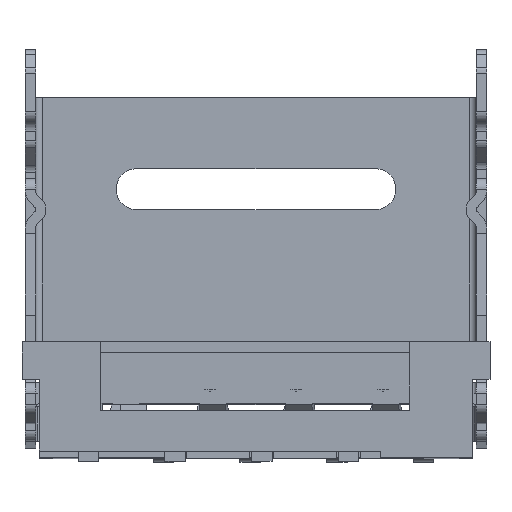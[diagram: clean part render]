
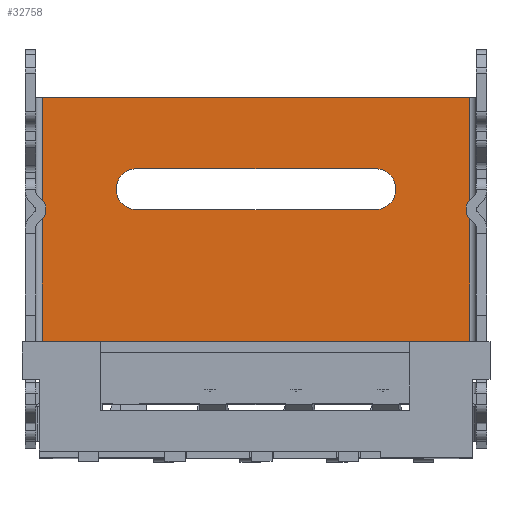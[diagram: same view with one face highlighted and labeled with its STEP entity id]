
A CAD part, top view. The second image highlights one B-rep face of the part: STEP entity #32758.
In plain terms, the highlighted planar face has unit normal (0, 0, 1) as drawn and (0, -1, 0) by its records, which use the part's own axes.
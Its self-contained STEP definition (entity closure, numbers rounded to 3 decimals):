
#29470=DIRECTION('',(-1.,0.,0.));
#29471=VECTOR('',#29470,1.17);
#29472=CARTESIAN_POINT('',(3.13,0.,-2.3));
#29473=LINE('',#29472,#29471);
#29500=DIRECTION('',(-1.,0.,0.));
#29501=VECTOR('',#29500,1.17);
#29502=CARTESIAN_POINT('',(-1.96,0.,-2.3));
#29503=LINE('',#29502,#29501);
#29661=DIRECTION('',(1.,0.,0.));
#29662=VECTOR('',#29661,3.5);
#29663=CARTESIAN_POINT('',(-1.75,0.,0.3));
#29664=LINE('',#29663,#29662);
#29668=CARTESIAN_POINT('',(-1.75,0.,0.));
#29669=DIRECTION('',(0.,1.,0.));
#29670=DIRECTION('',(0.,0.,-1.));
#29671=AXIS2_PLACEMENT_3D('',#29668,#29669,#29670);
#29676=DIRECTION('',(-1.,0.,0.));
#29677=VECTOR('',#29676,3.5);
#29678=CARTESIAN_POINT('',(1.75,0.,-0.3));
#29679=LINE('',#29678,#29677);
#29683=CARTESIAN_POINT('',(1.75,0.,0.));
#29684=DIRECTION('',(0.,1.,0.));
#29685=DIRECTION('',(0.,0.,1.));
#29686=AXIS2_PLACEMENT_3D('',#29683,#29684,#29685);
#29691=CARTESIAN_POINT('',(0.,0.,0.6));
#29692=DIRECTION('',(0.,1.,0.));
#29693=DIRECTION('',(0.56,0.,-0.829));
#29694=AXIS2_PLACEMENT_3D('',#29691,#29692,#29693);
#29699=DIRECTION('',(1.,0.,0.));
#29700=VECTOR('',#29699,6.26);
#29701=CARTESIAN_POINT('',(-3.13,0.,1.34));
#29702=LINE('',#29701,#29700);
#29706=DIRECTION('',(0.,0.,-1.));
#29707=VECTOR('',#29706,3.64);
#29708=CARTESIAN_POINT('',(3.13,0.,1.34));
#29709=LINE('',#29708,#29707);
#29986=DIRECTION('',(0.,0.,-1.));
#29987=VECTOR('',#29986,3.64);
#29988=CARTESIAN_POINT('',(-3.13,0.,1.34));
#29989=LINE('',#29988,#29987);
#30836=CARTESIAN_POINT('',(-1.75,0.,0.3));
#30837=CARTESIAN_POINT('',(1.75,0.,0.3));
#30838=VERTEX_POINT('',#30836);
#30839=VERTEX_POINT('',#30837);
#30840=CARTESIAN_POINT('',(1.75,0.,-0.3));
#30841=VERTEX_POINT('',#30840);
#30842=CARTESIAN_POINT('',(-1.75,0.,-0.3));
#30843=VERTEX_POINT('',#30842);
#31012=CARTESIAN_POINT('',(-3.13,0.,1.34));
#31014=VERTEX_POINT('',#31012);
#31016=CARTESIAN_POINT('',(3.13,0.,1.34));
#31017=VERTEX_POINT('',#31016);
#31088=CARTESIAN_POINT('',(3.13,0.,-2.3));
#31089=VERTEX_POINT('',#31088);
#31090=CARTESIAN_POINT('',(-3.13,0.,-2.3));
#31091=VERTEX_POINT('',#31090);
#31092=CARTESIAN_POINT('',(1.96,0.,-2.3));
#31094=VERTEX_POINT('',#31092);
#31096=CARTESIAN_POINT('',(-1.96,0.,-2.3));
#31098=VERTEX_POINT('',#31096);
#32733=CARTESIAN_POINT('',(-3.13,0.,-3.));
#32734=DIRECTION('',(0.,-1.,0.));
#32735=DIRECTION('',(1.,0.,0.));
#32736=AXIS2_PLACEMENT_3D('',#32733,#32734,#32735);
#32737=PLANE('',#32736);
#32738=ORIENTED_EDGE('',*,*,#32600,.T.);
#32740=ORIENTED_EDGE('',*,*,#32739,.T.);
#32741=ORIENTED_EDGE('',*,*,#32616,.T.);
#32743=ORIENTED_EDGE('',*,*,#32742,.F.);
#32744=ORIENTED_EDGE('',*,*,#32652,.T.);
#32745=ORIENTED_EDGE('',*,*,#32727,.T.);
#32746=EDGE_LOOP('',(#32738,#32740,#32741,#32743,#32744,#32745));
#32747=FACE_OUTER_BOUND('',#32746,.F.);
#32749=ORIENTED_EDGE('',*,*,#32748,.F.);
#32751=ORIENTED_EDGE('',*,*,#32750,.F.);
#32753=ORIENTED_EDGE('',*,*,#32752,.F.);
#32755=ORIENTED_EDGE('',*,*,#32754,.F.);
#32756=EDGE_LOOP('',(#32749,#32751,#32753,#32755));
#32757=FACE_BOUND('',#32756,.F.);
#29672=CIRCLE('',#29671,0.3);
#29687=CIRCLE('',#29686,0.3);
#29695=CIRCLE('',#29694,3.5);
#32600=EDGE_CURVE('',#31089,#31094,#29473,.T.);
#32616=EDGE_CURVE('',#31098,#31091,#29503,.T.);
#32652=EDGE_CURVE('',#31014,#31017,#29702,.T.);
#32727=EDGE_CURVE('',#31017,#31089,#29709,.T.);
#32739=EDGE_CURVE('',#31094,#31098,#29695,.T.);
#32742=EDGE_CURVE('',#31014,#31091,#29989,.T.);
#32748=EDGE_CURVE('',#30838,#30839,#29664,.T.);
#32750=EDGE_CURVE('',#30843,#30838,#29672,.T.);
#32752=EDGE_CURVE('',#30841,#30843,#29679,.T.);
#32754=EDGE_CURVE('',#30839,#30841,#29687,.T.);
#32758=ADVANCED_FACE('',(#32747,#32757),#32737,.T.);
